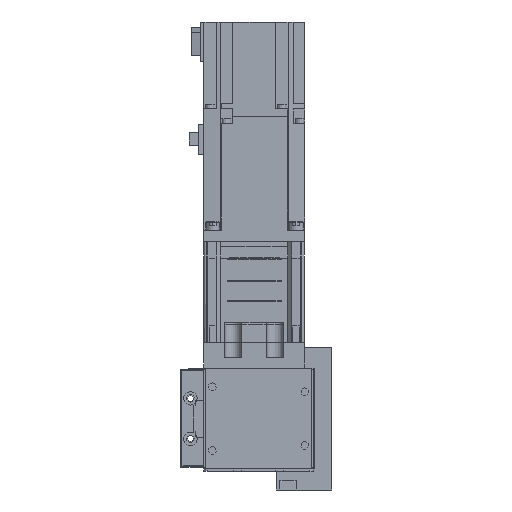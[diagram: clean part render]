
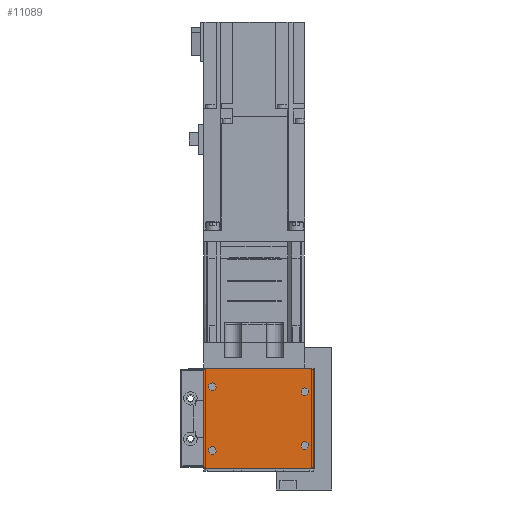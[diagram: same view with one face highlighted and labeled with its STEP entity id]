
A CAD part, left-side view. The second image highlights one B-rep face of the part: STEP entity #11089.
In plain terms, the highlighted planar face has unit normal (-1, 0, 0) as drawn and (0, 0, 1) by its records, which use the part's own axes.
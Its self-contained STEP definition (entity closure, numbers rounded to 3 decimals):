
#537=CIRCLE('',#12041,2.);
#539=CIRCLE('',#12045,2.);
#541=CIRCLE('',#12049,2.);
#542=CIRCLE('',#12052,2.25);
#544=CIRCLE('',#12055,2.25);
#546=CIRCLE('',#12058,2.25);
#548=CIRCLE('',#12061,2.25);
#551=CIRCLE('',#12065,2.);
#1773=ORIENTED_EDGE('',*,*,#4337,.F.);
#1774=ORIENTED_EDGE('',*,*,#4335,.F.);
#1775=ORIENTED_EDGE('',*,*,#4333,.F.);
#1776=ORIENTED_EDGE('',*,*,#4331,.F.);
#1777=ORIENTED_EDGE('',*,*,#4311,.T.);
#1778=ORIENTED_EDGE('',*,*,#4315,.T.);
#1779=ORIENTED_EDGE('',*,*,#4318,.T.);
#1780=ORIENTED_EDGE('',*,*,#4321,.T.);
#1781=ORIENTED_EDGE('',*,*,#4324,.T.);
#1782=ORIENTED_EDGE('',*,*,#4327,.T.);
#1783=ORIENTED_EDGE('',*,*,#4330,.T.);
#1784=ORIENTED_EDGE('',*,*,#4340,.T.);
#4311=EDGE_CURVE('',#5713,#5712,#6733,.T.);
#4315=EDGE_CURVE('',#5712,#5715,#537,.T.);
#4318=EDGE_CURVE('',#5715,#5717,#6738,.T.);
#4321=EDGE_CURVE('',#5717,#5719,#539,.T.);
#4324=EDGE_CURVE('',#5719,#5721,#6742,.T.);
#4327=EDGE_CURVE('',#5721,#5723,#541,.T.);
#4330=EDGE_CURVE('',#5723,#5725,#6746,.T.);
#4331=EDGE_CURVE('',#5726,#5726,#542,.T.);
#4333=EDGE_CURVE('',#5728,#5728,#544,.T.);
#4335=EDGE_CURVE('',#5730,#5730,#546,.T.);
#4337=EDGE_CURVE('',#5732,#5732,#548,.T.);
#4340=EDGE_CURVE('',#5725,#5713,#551,.T.);
#5712=VERTEX_POINT('',#17091);
#5713=VERTEX_POINT('',#17093);
#5715=VERTEX_POINT('',#17099);
#5717=VERTEX_POINT('',#17105);
#5719=VERTEX_POINT('',#17111);
#5721=VERTEX_POINT('',#17117);
#5723=VERTEX_POINT('',#17123);
#5725=VERTEX_POINT('',#17129);
#5726=VERTEX_POINT('',#17133);
#5728=VERTEX_POINT('',#17138);
#5730=VERTEX_POINT('',#17143);
#5732=VERTEX_POINT('',#17148);
#6733=LINE('',#17092,#7825);
#6738=LINE('',#17106,#7830);
#6742=LINE('',#17118,#7834);
#6746=LINE('',#17130,#7838);
#7825=VECTOR('',#13864,1000.);
#7830=VECTOR('',#13877,1000.);
#7834=VECTOR('',#13889,1000.);
#7838=VECTOR('',#13901,1000.);
#9013=EDGE_LOOP('',(#1773));
#9014=EDGE_LOOP('',(#1774));
#9015=EDGE_LOOP('',(#1775));
#9016=EDGE_LOOP('',(#1776));
#9017=EDGE_LOOP('',(#1777,#1778,#1779,#1780,#1781,#1782,#1783,#1784));
#9911=FACE_BOUND('',#9013,.T.);
#9912=FACE_BOUND('',#9014,.T.);
#9913=FACE_BOUND('',#9015,.T.);
#9914=FACE_BOUND('',#9016,.T.);
#9915=FACE_BOUND('',#9017,.T.);
#10557=PLANE('',#12066);
#11089=ADVANCED_FACE('',(#9911,#9912,#9913,#9914,#9915),#10557,.T.);
#12041=AXIS2_PLACEMENT_3D('',#17100,#13871,#13872);
#12045=AXIS2_PLACEMENT_3D('',#17112,#13883,#13884);
#12049=AXIS2_PLACEMENT_3D('',#17124,#13895,#13896);
#12052=AXIS2_PLACEMENT_3D('',#17132,#13904,#13905);
#12055=AXIS2_PLACEMENT_3D('',#17137,#13910,#13911);
#12058=AXIS2_PLACEMENT_3D('',#17142,#13916,#13917);
#12061=AXIS2_PLACEMENT_3D('',#17147,#13922,#13923);
#12065=AXIS2_PLACEMENT_3D('',#17153,#13930,#13931);
#12066=AXIS2_PLACEMENT_3D('',#17154,#13932,#13933);
#13864=DIRECTION('',(0.,-1.,0.));
#13871=DIRECTION('',(0.,0.,1.));
#13872=DIRECTION('',(1.,0.,0.));
#13877=DIRECTION('',(1.,0.,0.));
#13883=DIRECTION('',(0.,0.,1.));
#13884=DIRECTION('',(1.,0.,0.));
#13889=DIRECTION('',(0.,1.,0.));
#13895=DIRECTION('',(0.,0.,1.));
#13896=DIRECTION('',(1.,0.,0.));
#13901=DIRECTION('',(-1.,0.,0.));
#13904=DIRECTION('',(0.,0.,1.));
#13905=DIRECTION('',(1.,0.,0.));
#13910=DIRECTION('',(0.,0.,1.));
#13911=DIRECTION('',(1.,0.,0.));
#13916=DIRECTION('',(0.,0.,1.));
#13917=DIRECTION('',(1.,0.,0.));
#13922=DIRECTION('',(0.,0.,1.));
#13923=DIRECTION('',(1.,0.,0.));
#13930=DIRECTION('',(0.,0.,1.));
#13931=DIRECTION('',(1.,0.,0.));
#13932=DIRECTION('',(0.,0.,1.));
#13933=DIRECTION('',(1.,0.,0.));
#17091=CARTESIAN_POINT('',(-30.,-30.5,1.5));
#17092=CARTESIAN_POINT('',(-30.,30.5,1.5));
#17093=CARTESIAN_POINT('',(-30.,30.5,1.5));
#17099=CARTESIAN_POINT('',(-28.,-32.5,1.5));
#17100=CARTESIAN_POINT('',(-28.,-30.5,1.5));
#17105=CARTESIAN_POINT('',(28.,-32.5,1.5));
#17106=CARTESIAN_POINT('',(-28.,-32.5,1.5));
#17111=CARTESIAN_POINT('',(30.,-30.5,1.5));
#17112=CARTESIAN_POINT('',(28.,-30.5,1.5));
#17117=CARTESIAN_POINT('',(30.,30.5,1.5));
#17118=CARTESIAN_POINT('',(30.,-30.5,1.5));
#17123=CARTESIAN_POINT('',(28.,32.5,1.5));
#17124=CARTESIAN_POINT('',(28.,30.5,1.5));
#17129=CARTESIAN_POINT('',(-28.,32.5,1.5));
#17130=CARTESIAN_POINT('',(28.,32.5,1.5));
#17132=CARTESIAN_POINT('',(19.,27.5,1.5));
#17133=CARTESIAN_POINT('',(21.25,27.5,1.5));
#17137=CARTESIAN_POINT('',(16.,-27.5,1.5));
#17138=CARTESIAN_POINT('',(18.25,-27.5,1.5));
#17142=CARTESIAN_POINT('',(-16.,-27.5,1.5));
#17143=CARTESIAN_POINT('',(-13.75,-27.5,1.5));
#17147=CARTESIAN_POINT('',(-19.,27.5,1.5));
#17148=CARTESIAN_POINT('',(-16.75,27.5,1.5));
#17153=CARTESIAN_POINT('',(-28.,30.5,1.5));
#17154=CARTESIAN_POINT('',(-28.,-30.5,1.5));
